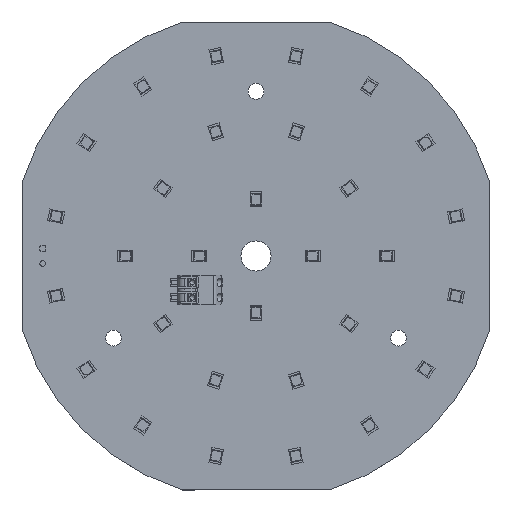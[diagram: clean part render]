
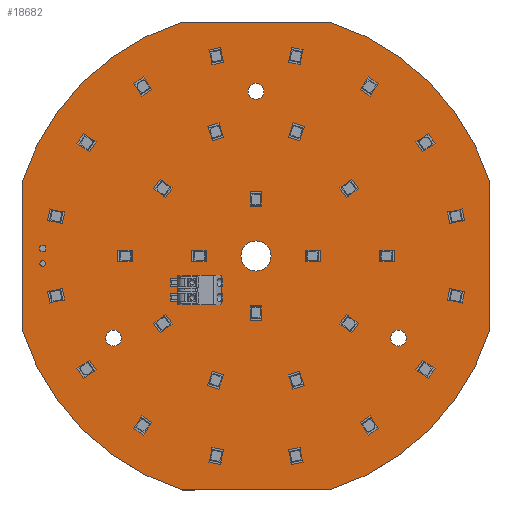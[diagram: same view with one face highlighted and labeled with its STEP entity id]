
A CAD part, top view. The second image highlights one B-rep face of the part: STEP entity #18682.
In plain terms, the highlighted planar face has unit normal (0, 0, 1).
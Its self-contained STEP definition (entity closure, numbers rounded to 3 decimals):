
#18 = DIRECTION ( 'NONE',  ( 0., 0., 1. ) ) ;
#64 = CARTESIAN_POINT ( 'NONE',  ( 67., 108.625, 0. ) ) ;
#67 = VECTOR ( 'NONE', #20010, 1000. ) ;
#86 = CIRCLE ( 'NONE', #15958, 2.1 ) ;
#116 = AXIS2_PLACEMENT_3D ( 'NONE', #21474, #21418, #21413 ) ;
#649 = EDGE_LOOP ( 'NONE', ( #4124, #15645 ) ) ;
#678 = AXIS2_PLACEMENT_3D ( 'NONE', #14905, #14865, #14807 ) ;
#1153 = VERTEX_POINT ( 'NONE', #4939 ) ;
#1558 = DIRECTION ( 'NONE',  ( 1., 0., 0. ) ) ;
#1609 = DIRECTION ( 'NONE',  ( 0., 0., 1. ) ) ;
#1636 = CARTESIAN_POINT ( 'NONE',  ( 67., 65., 0. ) ) ;
#1939 = DIRECTION ( 'NONE',  ( 1., 0., 0. ) ) ;
#2086 = LINE ( 'NONE', #27449, #33812 ) ;
#2386 = CARTESIAN_POINT ( 'NONE',  ( 86.519, 127., 0. ) ) ;
#2573 = VERTEX_POINT ( 'NONE', #25732 ) ;
#3135 = CARTESIAN_POINT ( 'NONE',  ( 31.35, 43.25, 0. ) ) ;
#3156 = CIRCLE ( 'NONE', #678, 65. ) ;
#3532 = VERTEX_POINT ( 'NONE', #33537 ) ;
#4039 = AXIS2_PLACEMENT_3D ( 'NONE', #19806, #19403, #19283 ) ;
#4124 = ORIENTED_EDGE ( 'NONE', *, *, #33243, .F. ) ;
#4128 = LINE ( 'NONE', #11342, #21074 ) ;
#4341 = DIRECTION ( 'NONE',  ( 1., 0., 0. ) ) ;
#4346 = DIRECTION ( 'NONE',  ( 0., 0., 1. ) ) ;
#4611 = CIRCLE ( 'NONE', #8988, 65. ) ;
#4939 = CARTESIAN_POINT ( 'NONE',  ( 5., 45.481, 0. ) ) ;
#5126 = DIRECTION ( 'NONE',  ( 1., 0., 0. ) ) ;
#5133 = DIRECTION ( 'NONE',  ( 0., 0., 1. ) ) ;
#5170 = CARTESIAN_POINT ( 'NONE',  ( 104.75, 43.25, 0. ) ) ;
#5525 = AXIS2_PLACEMENT_3D ( 'NONE', #8093, #8090, #8004 ) ;
#6389 = ORIENTED_EDGE ( 'NONE', *, *, #32413, .F. ) ;
#7156 = FACE_OUTER_BOUND ( 'NONE', #7857, .T. ) ;
#7857 = EDGE_LOOP ( 'NONE', ( #18798, #39939, #24882, #6389, #38990, #21529, #35546, #36339 ) ) ;
#8004 = DIRECTION ( 'NONE',  ( 1., 0., 0. ) ) ;
#8090 = DIRECTION ( 'NONE',  ( 0., 0., -1. ) ) ;
#8093 = CARTESIAN_POINT ( 'NONE',  ( 67., 65., 0. ) ) ;
#8418 = CARTESIAN_POINT ( 'NONE',  ( 106.85, 43.25, 0. ) ) ;
#8595 = LINE ( 'NONE', #20162, #67 ) ;
#8988 = AXIS2_PLACEMENT_3D ( 'NONE', #29991, #29983, #29948 ) ;
#9574 = VERTEX_POINT ( 'NONE', #33814 ) ;
#9858 = CARTESIAN_POINT ( 'NONE',  ( 5., 84.519, 0. ) ) ;
#10658 = VECTOR ( 'NONE', #36110, 1000. ) ;
#10898 = VERTEX_POINT ( 'NONE', #15885 ) ;
#11213 = VERTEX_POINT ( 'NONE', #3135 ) ;
#11339 = DIRECTION ( 'NONE',  ( 0., 1., 0. ) ) ;
#11342 = CARTESIAN_POINT ( 'NONE',  ( 5., 127., 0. ) ) ;
#12233 = ORIENTED_EDGE ( 'NONE', *, *, #31244, .F. ) ;
#12425 = CARTESIAN_POINT ( 'NONE',  ( 64.9, 108.625, 0. ) ) ;
#12468 = AXIS2_PLACEMENT_3D ( 'NONE', #34204, #34149, #34145 ) ;
#12880 = AXIS2_PLACEMENT_3D ( 'NONE', #5170, #5133, #5126 ) ;
#14807 = DIRECTION ( 'NONE',  ( 1., 0., 0. ) ) ;
#14865 = DIRECTION ( 'NONE',  ( 0., 0., -1. ) ) ;
#14905 = CARTESIAN_POINT ( 'NONE',  ( 67., 65., 0. ) ) ;
#15628 = FACE_BOUND ( 'NONE', #16056, .T. ) ;
#15645 = ORIENTED_EDGE ( 'NONE', *, *, #31546, .F. ) ;
#15885 = CARTESIAN_POINT ( 'NONE',  ( 47.481, 127., 0. ) ) ;
#15958 = AXIS2_PLACEMENT_3D ( 'NONE', #38866, #38906, #38820 ) ;
#16056 = EDGE_LOOP ( 'NONE', ( #28638, #20562 ) ) ;
#16662 = FACE_BOUND ( 'NONE', #34455, .T. ) ;
#16792 = AXIS2_PLACEMENT_3D ( 'NONE', #1636, #1609, #1558 ) ;
#17317 = VERTEX_POINT ( 'NONE', #12425 ) ;
#17345 = AXIS2_PLACEMENT_3D ( 'NONE', #27430, #27293, #27255 ) ;
#18258 = CARTESIAN_POINT ( 'NONE',  ( 29.25, 43.25, 0. ) ) ;
#18682 = ADVANCED_FACE ( 'NONE', ( #15628, #16662, #40438, #34367, #7156 ), #34548, .F. ) ;
#18798 = ORIENTED_EDGE ( 'NONE', *, *, #32955, .F. ) ;
#18987 = VERTEX_POINT ( 'NONE', #28801 ) ;
#19283 = DIRECTION ( 'NONE',  ( 1., 0., 0. ) ) ;
#19403 = DIRECTION ( 'NONE',  ( 0., 0., 1. ) ) ;
#19705 = VERTEX_POINT ( 'NONE', #25933 ) ;
#19806 = CARTESIAN_POINT ( 'NONE',  ( 67., 65., 0. ) ) ;
#20010 = DIRECTION ( 'NONE',  ( -1., 0., 0. ) ) ;
#20080 = CIRCLE ( 'NONE', #25972, 2.1 ) ;
#20106 = VERTEX_POINT ( 'NONE', #8418 ) ;
#20162 = CARTESIAN_POINT ( 'NONE',  ( 86.519, 3., 0. ) ) ;
#20218 = CARTESIAN_POINT ( 'NONE',  ( 29.25, 43.25, 0. ) ) ;
#20558 = VERTEX_POINT ( 'NONE', #38655 ) ;
#20562 = ORIENTED_EDGE ( 'NONE', *, *, #30777, .F. ) ;
#21074 = VECTOR ( 'NONE', #11339, 1000. ) ;
#21413 = DIRECTION ( 'NONE',  ( 1., 0., 0. ) ) ;
#21418 = DIRECTION ( 'NONE',  ( 0., 0., -1. ) ) ;
#21474 = CARTESIAN_POINT ( 'NONE',  ( 67., 65., 0. ) ) ;
#21529 = ORIENTED_EDGE ( 'NONE', *, *, #31988, .F. ) ;
#21648 = EDGE_LOOP ( 'NONE', ( #33529, #12233 ) ) ;
#23228 = CARTESIAN_POINT ( 'NONE',  ( 129., 45.481, 0. ) ) ;
#24527 = VERTEX_POINT ( 'NONE', #2386 ) ;
#24882 = ORIENTED_EDGE ( 'NONE', *, *, #32540, .F. ) ;
#25431 = ORIENTED_EDGE ( 'NONE', *, *, #31004, .F. ) ;
#25732 = CARTESIAN_POINT ( 'NONE',  ( 129., 84.519, 0. ) ) ;
#25933 = CARTESIAN_POINT ( 'NONE',  ( 102.65, 43.25, 0. ) ) ;
#25944 = CIRCLE ( 'NONE', #16792, 4. ) ;
#25972 = AXIS2_PLACEMENT_3D ( 'NONE', #20218, #4346, #4341 ) ;
#26527 = CIRCLE ( 'NONE', #5525, 65. ) ;
#26621 = CIRCLE ( 'NONE', #37369, 2.1 ) ;
#26720 = VERTEX_POINT ( 'NONE', #9858 ) ;
#27255 = DIRECTION ( 'NONE',  ( 1., 0., 0. ) ) ;
#27293 = DIRECTION ( 'NONE',  ( 0., 0., 1. ) ) ;
#27430 = CARTESIAN_POINT ( 'NONE',  ( 104.75, 43.25, 0. ) ) ;
#27449 = CARTESIAN_POINT ( 'NONE',  ( 129., 127., 0. ) ) ;
#27500 = DIRECTION ( 'NONE',  ( 0., -1., 0. ) ) ;
#28638 = ORIENTED_EDGE ( 'NONE', *, *, #33611, .F. ) ;
#28801 = CARTESIAN_POINT ( 'NONE',  ( 86.519, 3., 0. ) ) ;
#29432 = ORIENTED_EDGE ( 'NONE', *, *, #33502, .F. ) ;
#29826 = CIRCLE ( 'NONE', #116, 65. ) ;
#29948 = DIRECTION ( 'NONE',  ( 1., 0., 0. ) ) ;
#29983 = DIRECTION ( 'NONE',  ( 0., 0., -1. ) ) ;
#29991 = CARTESIAN_POINT ( 'NONE',  ( 67., 65., 0. ) ) ;
#30356 = CIRCLE ( 'NONE', #17345, 2.1 ) ;
#30777 = EDGE_CURVE ( 'NONE', #19705, #20106, #37870, .T. ) ;
#31004 = EDGE_CURVE ( 'NONE', #17317, #3532, #26621, .T. ) ;
#31244 = EDGE_CURVE ( 'NONE', #34412, #9574, #36869, .T. ) ;
#31417 = CARTESIAN_POINT ( 'NONE',  ( 63., 65., 0. ) ) ;
#31546 = EDGE_CURVE ( 'NONE', #20558, #11213, #31956, .T. ) ;
#31717 = EDGE_CURVE ( 'NONE', #10898, #24527, #35811, .T. ) ;
#31956 = CIRCLE ( 'NONE', #33011, 2.1 ) ;
#31988 = EDGE_CURVE ( 'NONE', #24527, #2573, #4611, .T. ) ;
#32110 = EDGE_CURVE ( 'NONE', #2573, #32300, #2086, .T. ) ;
#32300 = VERTEX_POINT ( 'NONE', #23228 ) ;
#32413 = EDGE_CURVE ( 'NONE', #32300, #18987, #29826, .T. ) ;
#32540 = EDGE_CURVE ( 'NONE', #18987, #38324, #8595, .T. ) ;
#32817 = EDGE_CURVE ( 'NONE', #38324, #1153, #3156, .T. ) ;
#32955 = EDGE_CURVE ( 'NONE', #1153, #26720, #4128, .T. ) ;
#33011 = AXIS2_PLACEMENT_3D ( 'NONE', #18258, #38139, #38133 ) ;
#33129 = EDGE_CURVE ( 'NONE', #26720, #10898, #26527, .T. ) ;
#33243 = EDGE_CURVE ( 'NONE', #11213, #20558, #20080, .T. ) ;
#33432 = EDGE_CURVE ( 'NONE', #9574, #34412, #25944, .T. ) ;
#33502 = EDGE_CURVE ( 'NONE', #3532, #17317, #86, .T. ) ;
#33529 = ORIENTED_EDGE ( 'NONE', *, *, #33432, .F. ) ;
#33537 = CARTESIAN_POINT ( 'NONE',  ( 69.1, 108.625, 0. ) ) ;
#33611 = EDGE_CURVE ( 'NONE', #20106, #19705, #30356, .T. ) ;
#33812 = VECTOR ( 'NONE', #27500, 1000. ) ;
#33814 = CARTESIAN_POINT ( 'NONE',  ( 71., 65., 0. ) ) ;
#34145 = DIRECTION ( 'NONE',  ( -1., 0., 0. ) ) ;
#34149 = DIRECTION ( 'NONE',  ( 0., 0., -1. ) ) ;
#34204 = CARTESIAN_POINT ( 'NONE',  ( 86.519, 127., 0. ) ) ;
#34367 = FACE_BOUND ( 'NONE', #649, .T. ) ;
#34412 = VERTEX_POINT ( 'NONE', #31417 ) ;
#34455 = EDGE_LOOP ( 'NONE', ( #29432, #25431 ) ) ;
#34548 = PLANE ( 'NONE',  #12468 ) ;
#35546 = ORIENTED_EDGE ( 'NONE', *, *, #31717, .F. ) ;
#35552 = CARTESIAN_POINT ( 'NONE',  ( 86.519, 127., 0. ) ) ;
#35811 = LINE ( 'NONE', #35552, #10658 ) ;
#36110 = DIRECTION ( 'NONE',  ( 1., 0., 0. ) ) ;
#36339 = ORIENTED_EDGE ( 'NONE', *, *, #33129, .F. ) ;
#36869 = CIRCLE ( 'NONE', #4039, 4. ) ;
#37369 = AXIS2_PLACEMENT_3D ( 'NONE', #64, #18, #1939 ) ;
#37870 = CIRCLE ( 'NONE', #12880, 2.1 ) ;
#38133 = DIRECTION ( 'NONE',  ( 1., 0., 0. ) ) ;
#38139 = DIRECTION ( 'NONE',  ( 0., 0., 1. ) ) ;
#38324 = VERTEX_POINT ( 'NONE', #38905 ) ;
#38655 = CARTESIAN_POINT ( 'NONE',  ( 27.15, 43.25, 0. ) ) ;
#38820 = DIRECTION ( 'NONE',  ( 1., 0., 0. ) ) ;
#38866 = CARTESIAN_POINT ( 'NONE',  ( 67., 108.625, 0. ) ) ;
#38905 = CARTESIAN_POINT ( 'NONE',  ( 47.481, 3., 0. ) ) ;
#38906 = DIRECTION ( 'NONE',  ( 0., 0., 1. ) ) ;
#38990 = ORIENTED_EDGE ( 'NONE', *, *, #32110, .F. ) ;
#39939 = ORIENTED_EDGE ( 'NONE', *, *, #32817, .F. ) ;
#40438 = FACE_BOUND ( 'NONE', #21648, .T. ) ;
